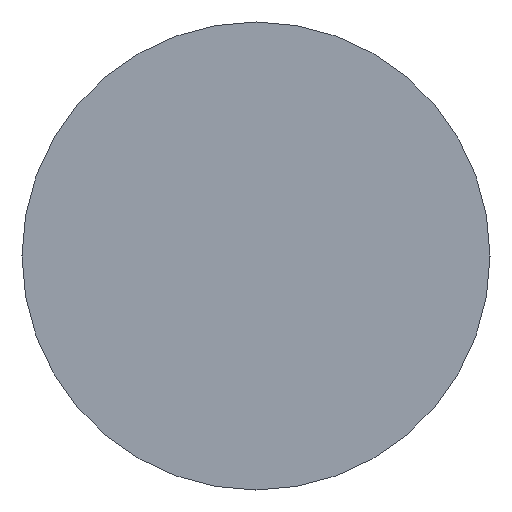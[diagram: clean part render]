
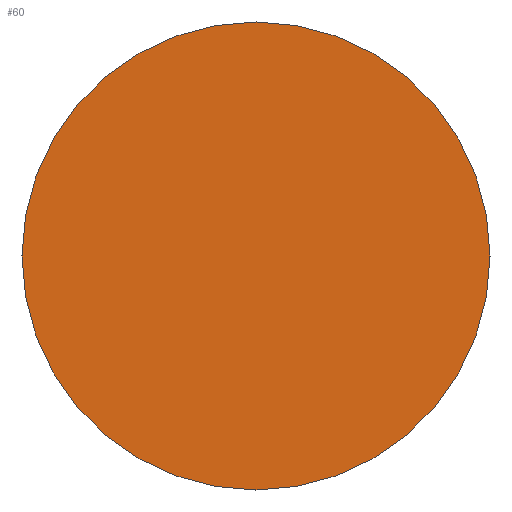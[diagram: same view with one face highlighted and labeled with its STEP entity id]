
A CAD part, left-side view. The second image highlights one B-rep face of the part: STEP entity #60.
In plain terms, the highlighted planar face has unit normal (-1, 0, 0).
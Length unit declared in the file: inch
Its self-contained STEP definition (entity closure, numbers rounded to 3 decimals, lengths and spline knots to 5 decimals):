
#12 = DIRECTION ( 'NONE',  ( 0., 0., 1. ) ) ;
#13 = DIRECTION ( 'NONE',  ( -1., 0., 0. ) ) ;
#20 = ORIENTED_EDGE ( 'NONE', *, *, #406, .T. ) ;
#55 = CARTESIAN_POINT ( 'NONE',  ( -3., 0., 0. ) ) ;
#60 = ADVANCED_FACE ( 'NONE', ( #312 ), #445, .F. ) ;
#96 = AXIS2_PLACEMENT_3D ( 'NONE', #444, #409, #243 ) ;
#167 = CIRCLE ( 'NONE', #233, 0.25 ) ;
#175 = ORIENTED_EDGE ( 'NONE', *, *, #190, .T. ) ;
#187 = AXIS2_PLACEMENT_3D ( 'NONE', #55, #13, #329 ) ;
#190 = EDGE_CURVE ( 'NONE', #256, #292, #167, .T. ) ;
#233 = AXIS2_PLACEMENT_3D ( 'NONE', #461, #490, #12 ) ;
#243 = DIRECTION ( 'NONE',  ( 0., 0., -1. ) ) ;
#256 = VERTEX_POINT ( 'NONE', #302 ) ;
#292 = VERTEX_POINT ( 'NONE', #393 ) ;
#302 = CARTESIAN_POINT ( 'NONE',  ( -3., 0., 0.25 ) ) ;
#312 = FACE_OUTER_BOUND ( 'NONE', #431, .T. ) ;
#329 = DIRECTION ( 'NONE',  ( 0., 0., 1. ) ) ;
#353 = CIRCLE ( 'NONE', #187, 0.25 ) ;
#393 = CARTESIAN_POINT ( 'NONE',  ( -3., 0., -0.25 ) ) ;
#406 = EDGE_CURVE ( 'NONE', #292, #256, #353, .T. ) ;
#409 = DIRECTION ( 'NONE',  ( 1., 0., 0. ) ) ;
#431 = EDGE_LOOP ( 'NONE', ( #175, #20 ) ) ;
#444 = CARTESIAN_POINT ( 'NONE',  ( -3., 0.25, 0. ) ) ;
#445 = PLANE ( 'NONE',  #96 ) ;
#461 = CARTESIAN_POINT ( 'NONE',  ( -3., 0., 0. ) ) ;
#490 = DIRECTION ( 'NONE',  ( -1., 0., 0. ) ) ;
